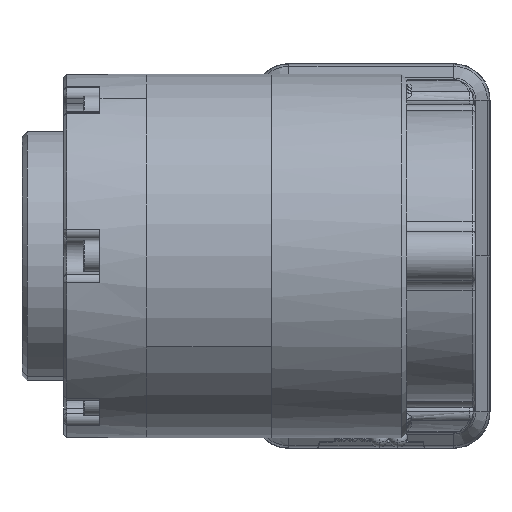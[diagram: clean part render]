
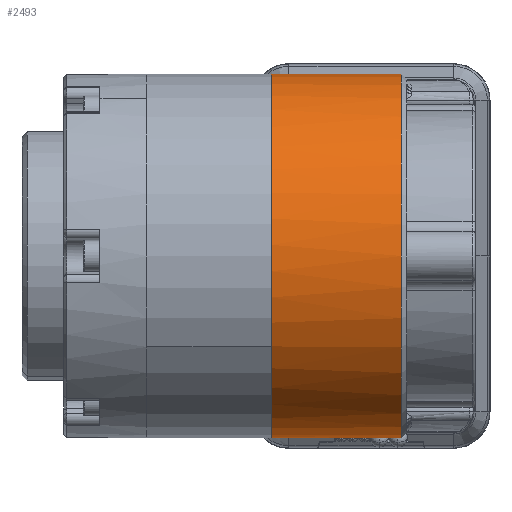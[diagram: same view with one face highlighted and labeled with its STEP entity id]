
A CAD part, front view. The second image highlights one B-rep face of the part: STEP entity #2493.
In plain terms, the highlighted cylindrical face has radius 17.5 mm (diameter 35 mm), a partial arc.
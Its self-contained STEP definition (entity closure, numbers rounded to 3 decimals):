
#1683 = AXIS2_PLACEMENT_3D ( 'NONE', #22417, #6602, #38203 ) ;
#1890 = CARTESIAN_POINT ( 'NONE',  ( -2.3, -7.988, 15.786 ) ) ;
#2493 = ADVANCED_FACE ( 'NONE', ( #58802 ), #40467, .T. ) ;
#2658 = LINE ( 'NONE', #15059, #36722 ) ;
#2798 = CARTESIAN_POINT ( 'NONE',  ( -2.3, 0., 17.5 ) ) ;
#3367 = DIRECTION ( 'NONE',  ( 1., 0., 0. ) ) ;
#5167 = CARTESIAN_POINT ( 'NONE',  ( -4.001, 0., 17.5 ) ) ;
#6602 = DIRECTION ( 'NONE',  ( -1., 0., 0. ) ) ;
#7219 = CARTESIAN_POINT ( 'NONE',  ( -2.3, -12.003, 12.894 ) ) ;
#9081 = CARTESIAN_POINT ( 'NONE',  ( -2.3, -3.465, -17.212 ) ) ;
#9435 = CARTESIAN_POINT ( 'NONE',  ( -2.3, 0., 17.5 ) ) ;
#12489 = CIRCLE ( 'NONE', #1683, 17.5 ) ;
#12618 = CARTESIAN_POINT ( 'NONE',  ( -2.3, -15.887, 7.61 ) ) ;
#12649 = VERTEX_POINT ( 'NONE', #26514 ) ;
#13491 = VERTEX_POINT ( 'NONE', #9435 ) ;
#13591 = VECTOR ( 'NONE', #15224, 1000. ) ;
#13846 = EDGE_CURVE ( 'NONE', #13491, #17324, #27730, .T. ) ;
#14139 = EDGE_LOOP ( 'NONE', ( #63635, #36866, #17427, #35853 ) ) ;
#14432 = CARTESIAN_POINT ( 'NONE',  ( -2.3, -8.726, -15.303 ) ) ;
#15059 = CARTESIAN_POINT ( 'NONE',  ( -4.001, 0., -17.5 ) ) ;
#15224 = DIRECTION ( 'NONE',  ( 1., 0., 0. ) ) ;
#15650 = CARTESIAN_POINT ( 'NONE',  ( 10.2, 0., 17.5 ) ) ;
#17324 = VERTEX_POINT ( 'NONE', #15650 ) ;
#17427 = ORIENTED_EDGE ( 'NONE', *, *, #42034, .T. ) ;
#17963 = CARTESIAN_POINT ( 'NONE',  ( -2.3, -17.45, 2.915 ) ) ;
#17977 = VERTEX_POINT ( 'NONE', #44538 ) ;
#19550 = CARTESIAN_POINT ( 'NONE',  ( -2.3, -14.695, -9.715 ) ) ;
#20635 = DIRECTION ( 'NONE',  ( 1., 0., 0. ) ) ;
#22417 = CARTESIAN_POINT ( 'NONE',  ( 10.2, 0., 0. ) ) ;
#23038 = CARTESIAN_POINT ( 'NONE',  ( -2.3, -4.889, 16.924 ) ) ;
#23271 = CARTESIAN_POINT ( 'NONE',  ( -2.3, -17.612, -0.383 ) ) ;
#26514 = CARTESIAN_POINT ( 'NONE',  ( -2.3, 0., -17.5 ) ) ;
#27730 = LINE ( 'NONE', #5167, #13591 ) ;
#28086 = B_SPLINE_CURVE_WITH_KNOTS ( 'NONE', 5,
 ( #2798, #39771, #34635, #23038, #1890, #39072, #7219, #44422, #12618, #49796, #17963, #23271, #60500, #28660, #33981, #19550, #62323, #56539, #14432, #51416, #9081, #56767, #67450, #30475 ),
 .UNSPECIFIED., .F., .F.,
 ( 6, 3, 3, 3, 3, 3, 3, 6 ),
 ( 0., 11.593, 23.186, 34.779, 46.372, 57.965, 69.558, 77.75 ),
 .UNSPECIFIED. ) ;
#28660 = CARTESIAN_POINT ( 'NONE',  ( -2.3, -16.886, -5.278 ) ) ;
#30475 = CARTESIAN_POINT ( 'NONE',  ( -2.3, 0., -17.5 ) ) ;
#33981 = CARTESIAN_POINT ( 'NONE',  ( -2.3, -15.542, -8.293 ) ) ;
#34635 = CARTESIAN_POINT ( 'NONE',  ( -2.3, -3.279, 17.308 ) ) ;
#35204 = CARTESIAN_POINT ( 'NONE',  ( -4.001, 0., 0. ) ) ;
#35853 = ORIENTED_EDGE ( 'NONE', *, *, #57650, .T. ) ;
#36722 = VECTOR ( 'NONE', #20635, 1000. ) ;
#36866 = ORIENTED_EDGE ( 'NONE', *, *, #58941, .T. ) ;
#38203 = DIRECTION ( 'NONE',  ( 0., 1., 0. ) ) ;
#39072 = CARTESIAN_POINT ( 'NONE',  ( -2.3, -10.74, 13.963 ) ) ;
#39771 = CARTESIAN_POINT ( 'NONE',  ( -2.3, -1.639, 17.5 ) ) ;
#40467 = CYLINDRICAL_SURFACE ( 'NONE', #60144, 17.5 ) ;
#42034 = EDGE_CURVE ( 'NONE', #12649, #17977, #2658, .T. ) ;
#44422 = CARTESIAN_POINT ( 'NONE',  ( -2.3, -14.255, 10.479 ) ) ;
#44538 = CARTESIAN_POINT ( 'NONE',  ( 10.2, 0., -17.5 ) ) ;
#44754 = DIRECTION ( 'NONE',  ( 0., 0., -1. ) ) ;
#49796 = CARTESIAN_POINT ( 'NONE',  ( -2.3, -16.531, 6.086 ) ) ;
#51416 = CARTESIAN_POINT ( 'NONE',  ( -2.3, -6.186, -16.522 ) ) ;
#56539 = CARTESIAN_POINT ( 'NONE',  ( -2.3, -10.123, -14.417 ) ) ;
#56767 = CARTESIAN_POINT ( 'NONE',  ( -2.3, -2.317, -17.404 ) ) ;
#57650 = EDGE_CURVE ( 'NONE', #17977, #17324, #12489, .T. ) ;
#58802 = FACE_OUTER_BOUND ( 'NONE', #14139, .T. ) ;
#58941 = EDGE_CURVE ( 'NONE', #13491, #12649, #28086, .T. ) ;
#60144 = AXIS2_PLACEMENT_3D ( 'NONE', #35204, #3367, #44754 ) ;
#60500 = CARTESIAN_POINT ( 'NONE',  ( -2.3, -17.498, -2.034 ) ) ;
#62323 = CARTESIAN_POINT ( 'NONE',  ( -2.3, -12.684, -12.333 ) ) ;
#63635 = ORIENTED_EDGE ( 'NONE', *, *, #13846, .F. ) ;
#67450 = CARTESIAN_POINT ( 'NONE',  ( -2.3, -1.158, -17.5 ) ) ;
